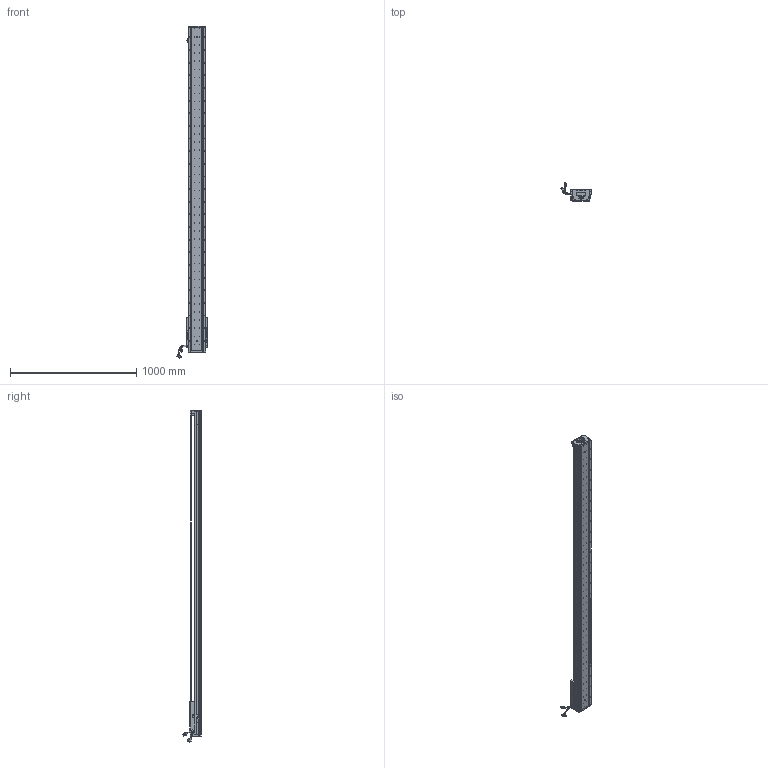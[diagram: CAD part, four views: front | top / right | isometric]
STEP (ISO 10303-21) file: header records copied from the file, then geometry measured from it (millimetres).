
FILE_DESCRIPTION (( 'STEP AP203' ), '1' );
FILE_NAME ('Z3-RY140D-1-L500-B-K.SLDASM_2250.step', '2021-05-17T08:04:25', ( '盈信电脑' ), ( '东莞市道滘镇水果街19号' ), 'SwSTEP 2.0', 'SolidWorks 2016', '' );
FILE_SCHEMA (( 'CONFIG_CONTROL_DESIGN' ));
Length unit declared in the file: millimetre
Products named in the file (36): HARNESS-Part-1; SCREW-M1.7-1; SCREW-M1.6-1; PBU_SHEET; Z-RY140詩湍狟揤裔; HOLDER0; HARNESS; COVER; SCREW-M1.6-3; SCALE; PSLH080_PSLF2; LABEL-Part-1; LABEL; SHIELDPLATE; Z3-RY140圉猾敕臏賑輸(21遴); Z-RY140詩湍奻揤裔; Z3-RY140D-1-L500-B-K.SLDASM_2250; Z-RY140感应器672光电感应片; COVER-Part-1; 140-Z-臏賑輸盄裔(21遴); Z-140詩湍傷裔啣; 榋妏寠巭燃_暯_M2_2; Z3-RY140-L500直线电机模组底座_2250; SCREW-M1.6; SEAL-Part-1; SCREW-M1.7; SCREW-M1.6-2; 覜茼ん672; HARNESS-Part-2; SCALE-Part-1; Z3-RY140-L500詩湍100mm遵_2250; SCALE-Part-2; 140蚥薯蝶輸; SEAL; 080黍杅芛假蚾釱21遴; 140雄赽晤鎢ん堤盄
Assembly tree (41 placements, depth 4):
  Z3-RY140D-1-L500-B-K.SLDASM_2250
    Z3-RY140-L500直线电机模组底座_2250
    Z-RY140感应器672光电感应片
    Z3-RY140圉猾敕臏賑輸(21遴)
    覜茼ん672  x3
    Z3-RY140-L500詩湍100mm遵_2250
    PSLH080_PSLF2
      SCALE
        SCALE-Part-1
        SCALE-Part-2
      HARNESS
        HARNESS-Part-1
        HARNESS-Part-2
      LABEL
        LABEL-Part-1
      COVER
        COVER-Part-1
      SEAL
        SEAL-Part-1
      榋妏寠巭燃_暯_M2_2
      SHIELDPLATE
      SCREW-M1.7
      SCREW-M1.7-1
      PBU_SHEET
      SCREW-M1.6
      SCREW-M1.6-1
      SCREW-M1.6-2
      SCREW-M1.6-3
      HOLDER0
    080黍杅芛假蚾釱21遴
    140-Z-臏賑輸盄裔(21遴)
    Z-140詩湍傷裔啣  x2
    Z-RY140詩湍狟揤裔  x2
    Z-RY140詩湍奻揤裔  x2
    140蚥薯蝶輸  x2
    140雄赽晤鎢ん堤盄
Bounding box: 239.79 x 143.88 x 2625.87 mm (x, y, z)
Volume: 8436844.6 mm3; surface area: 2196716.6 mm2
Topology: 36 solids, 36 shells, 4068 faces, 11052 edges, 6997 vertices
Faces by surface type: cylinder 2190, plane 1354, cone 402, torus 69, bspline 53
Entity records: 128636 total; most frequent: CARTESIAN_POINT 36149, ORIENTED_EDGE 19024, DIRECTION 17680, EDGE_CURVE 9512, AXIS2_PLACEMENT_3D 6576, VERTEX_POINT 6165, LINE 4528, VECTOR 4528
